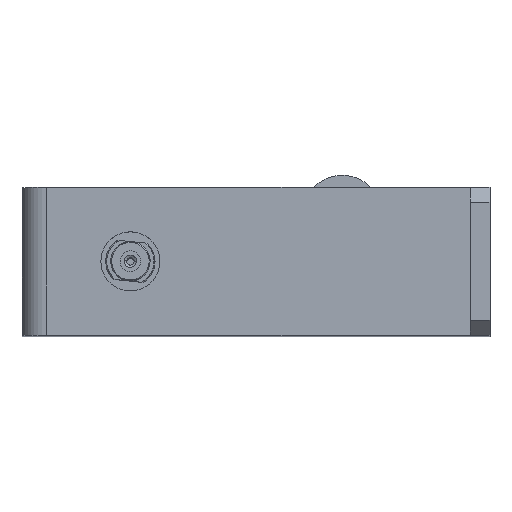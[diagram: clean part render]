
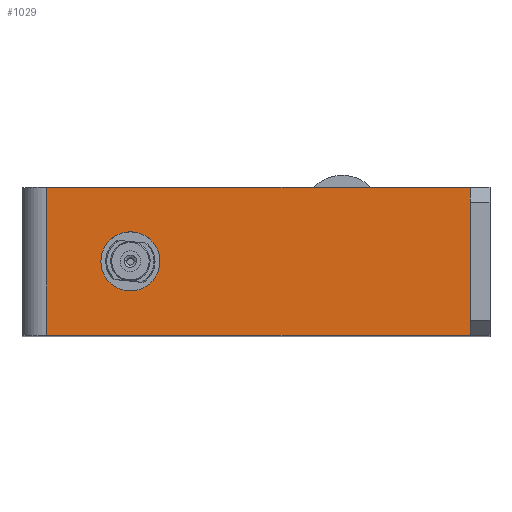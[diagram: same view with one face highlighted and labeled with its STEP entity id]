
A CAD part, top view. The second image highlights one B-rep face of the part: STEP entity #1029.
In plain terms, the highlighted planar face has unit normal (0, 0, 1).
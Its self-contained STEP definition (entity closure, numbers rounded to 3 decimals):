
#55 = VECTOR ( 'NONE', #4459, 1000. ) ;
#119 = CARTESIAN_POINT ( 'NONE',  ( 28., 0., 0. ) ) ;
#192 = VERTEX_POINT ( 'NONE', #119 ) ;
#253 = CIRCLE ( 'NONE', #4995, 6. ) ;
#449 = EDGE_CURVE ( 'NONE', #2862, #2405, #2274, .T. ) ;
#474 = LINE ( 'NONE', #5757, #55 ) ;
#541 = CARTESIAN_POINT ( 'NONE',  ( 91., 15., 0. ) ) ;
#648 = PLANE ( 'NONE',  #4701 ) ;
#806 = DIRECTION ( 'NONE',  ( 0., 0., -1. ) ) ;
#860 = EDGE_CURVE ( 'NONE', #192, #3969, #2866, .T. ) ;
#869 = CARTESIAN_POINT ( 'NONE',  ( 5., -15., 0. ) ) ;
#1029 = ADVANCED_FACE ( 'NONE', ( #5514, #5129 ), #648, .F. ) ;
#1050 = DIRECTION ( 'NONE',  ( 0., -1., 0. ) ) ;
#1115 = CARTESIAN_POINT ( 'NONE',  ( 5., 15., 0. ) ) ;
#1179 = ORIENTED_EDGE ( 'NONE', *, *, #860, .T. ) ;
#1273 = AXIS2_PLACEMENT_3D ( 'NONE', #5337, #806, #5762 ) ;
#1316 = EDGE_CURVE ( 'NONE', #3969, #192, #253, .T. ) ;
#1372 = ORIENTED_EDGE ( 'NONE', *, *, #2698, .T. ) ;
#1525 = DIRECTION ( 'NONE',  ( -1., 0., 0. ) ) ;
#1671 = EDGE_LOOP ( 'NONE', ( #1372, #4974, #2107, #4148 ) ) ;
#1678 = VECTOR ( 'NONE', #4064, 1000. ) ;
#1774 = CARTESIAN_POINT ( 'NONE',  ( 91., 25.77, 0. ) ) ;
#1935 = CARTESIAN_POINT ( 'NONE',  ( 0., 15., 0. ) ) ;
#2001 = EDGE_LOOP ( 'NONE', ( #1179, #2778 ) ) ;
#2047 = CARTESIAN_POINT ( 'NONE',  ( 0., 15., 0. ) ) ;
#2107 = ORIENTED_EDGE ( 'NONE', *, *, #449, .F. ) ;
#2274 = LINE ( 'NONE', #1935, #1678 ) ;
#2405 = VERTEX_POINT ( 'NONE', #541 ) ;
#2551 = CARTESIAN_POINT ( 'NONE',  ( 91., -15., 0. ) ) ;
#2698 = EDGE_CURVE ( 'NONE', #3473, #4311, #474, .T. ) ;
#2778 = ORIENTED_EDGE ( 'NONE', *, *, #1316, .T. ) ;
#2862 = VERTEX_POINT ( 'NONE', #1115 ) ;
#2866 = CIRCLE ( 'NONE', #1273, 6. ) ;
#2997 = EDGE_CURVE ( 'NONE', #2862, #3473, #4482, .T. ) ;
#3269 = CARTESIAN_POINT ( 'NONE',  ( 5., 15., 0. ) ) ;
#3473 = VERTEX_POINT ( 'NONE', #869 ) ;
#3591 = LINE ( 'NONE', #1774, #5740 ) ;
#3816 = DIRECTION ( 'NONE',  ( 0., 0., -1. ) ) ;
#3890 = DIRECTION ( 'NONE',  ( -1., 0., 0. ) ) ;
#3969 = VERTEX_POINT ( 'NONE', #4452 ) ;
#4064 = DIRECTION ( 'NONE',  ( 1., 0., 0. ) ) ;
#4148 = ORIENTED_EDGE ( 'NONE', *, *, #2997, .T. ) ;
#4237 = CARTESIAN_POINT ( 'NONE',  ( 22., 0., 0. ) ) ;
#4270 = DIRECTION ( 'NONE',  ( 0., 0., -1. ) ) ;
#4311 = VERTEX_POINT ( 'NONE', #2551 ) ;
#4446 = VECTOR ( 'NONE', #5001, 1000. ) ;
#4452 = CARTESIAN_POINT ( 'NONE',  ( 16., 0., 0. ) ) ;
#4459 = DIRECTION ( 'NONE',  ( 1., 0., 0. ) ) ;
#4482 = LINE ( 'NONE', #3269, #4446 ) ;
#4617 = EDGE_CURVE ( 'NONE', #2405, #4311, #3591, .T. ) ;
#4701 = AXIS2_PLACEMENT_3D ( 'NONE', #2047, #3816, #1525 ) ;
#4974 = ORIENTED_EDGE ( 'NONE', *, *, #4617, .F. ) ;
#4995 = AXIS2_PLACEMENT_3D ( 'NONE', #4237, #4270, #3890 ) ;
#5001 = DIRECTION ( 'NONE',  ( 0., -1., 0. ) ) ;
#5129 = FACE_OUTER_BOUND ( 'NONE', #1671, .T. ) ;
#5337 = CARTESIAN_POINT ( 'NONE',  ( 22., 0., 0. ) ) ;
#5514 = FACE_BOUND ( 'NONE', #2001, .T. ) ;
#5740 = VECTOR ( 'NONE', #1050, 1000. ) ;
#5757 = CARTESIAN_POINT ( 'NONE',  ( 0., -15., 0. ) ) ;
#5762 = DIRECTION ( 'NONE',  ( -1., 0., 0. ) ) ;
